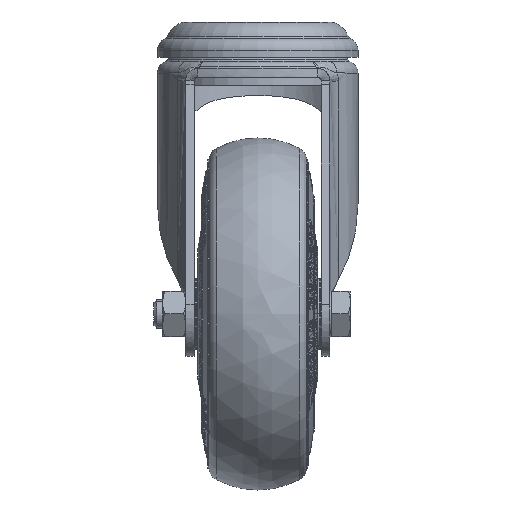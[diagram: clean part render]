
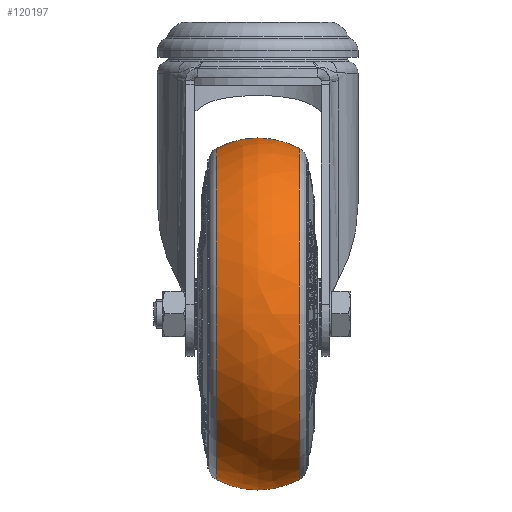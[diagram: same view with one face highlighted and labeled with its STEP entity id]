
A CAD part, top view. The second image highlights one B-rep face of the part: STEP entity #120197.
In plain terms, the highlighted free-form (B-spline) face has degree [3, 3] with [7, 4] control points.
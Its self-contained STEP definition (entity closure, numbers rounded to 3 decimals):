
#1553 = VERTEX_POINT ( 'NONE', #105049 ) ;
#7579 = CARTESIAN_POINT ( 'NONE',  ( -4.455, 51.164, 31.486 ) ) ;
#9254 = CARTESIAN_POINT ( 'NONE',  ( -12.226, -2.939, 46.714 ) ) ;
#13506 = CIRCLE ( 'NONE', #50281, 25. ) ;
#16604 = CARTESIAN_POINT ( 'NONE',  ( 0., 0., 25. ) ) ;
#17002 = CARTESIAN_POINT ( 'NONE',  ( -12.226, -2.939, -46.714 ) ) ;
#17425 = CARTESIAN_POINT ( 'NONE',  ( -4.455, 51.164, 0. ) ) ;
#17834 = CARTESIAN_POINT ( 'NONE',  ( 4.455, 28.211, -53.04 ) ) ;
#18687 = CARTESIAN_POINT ( 'NONE',  ( -4.455, 28.211, 53.04 ) ) ;
#19952 = CARTESIAN_POINT ( 'NONE',  ( 12.226, -2.939, 46.714 ) ) ;
#20178 = CARTESIAN_POINT ( 'NONE',  ( 11.795, 0., -47.043 ) ) ;
#23961 = DIRECTION ( 'NONE',  ( 0., 0., -1. ) ) ;
#27335 = DIRECTION ( 'NONE',  ( 0., 1., 0. ) ) ;
#28171 = CARTESIAN_POINT ( 'NONE',  ( 12.226, -2.939, -46.714 ) ) ;
#30574 = CIRCLE ( 'NONE', #106483, 25. ) ;
#32738 = AXIS2_PLACEMENT_3D ( 'NONE', #115594, #114765, #115187 ) ;
#34246 = CARTESIAN_POINT ( 'NONE',  ( 11.795, 0., 0. ) ) ;
#36264 = CARTESIAN_POINT ( 'NONE',  ( -12.226, 46.807, 0. ) ) ;
#37543 = CARTESIAN_POINT ( 'NONE',  ( -4.455, 51.164, -31.486 ) ) ;
#38396 = CARTESIAN_POINT ( 'NONE',  ( 12.226, 25.809, 48.523 ) ) ;
#42897 = CARTESIAN_POINT ( 'NONE',  ( -11.795, 0., -47.043 ) ) ;
#50281 = AXIS2_PLACEMENT_3D ( 'NONE', #16604, #27335, #94689 ) ;
#52001 = EDGE_CURVE ( 'NONE', #95591, #80076, #30574, .T. ) ;
#56346 = CARTESIAN_POINT ( 'NONE',  ( 12.226, 25.809, -48.523 ) ) ;
#57213 = CARTESIAN_POINT ( 'NONE',  ( -12.226, 46.807, 28.805 ) ) ;
#58075 = CARTESIAN_POINT ( 'NONE',  ( 12.226, 46.807, 28.805 ) ) ;
#64044 = DIRECTION ( 'NONE',  ( 0., -1., 0. ) ) ;
#65853 = FACE_OUTER_BOUND ( 'NONE', #119506, .T. ) ;
#66236 = CARTESIAN_POINT ( 'NONE',  ( 4.455, 51.164, 0. ) ) ;
#68773 = CARTESIAN_POINT ( 'NONE',  ( -12.226, 25.809, 48.523 ) ) ;
#69187 = CARTESIAN_POINT ( 'NONE',  ( 4.455, -3.213, 51.063 ) ) ;
#69233 =( BOUNDED_SURFACE ( )  B_SPLINE_SURFACE ( 3, 3, ( 
 ( #17002, #76568, #106589, #28171 ),
 ( #95092, #86899, #17834, #56346 ),
 ( #85622, #37543, #116373, #106173 ),
 ( #36264, #17425, #66236, #115944 ),
 ( #57213, #7579, #95914, #58075 ),
 ( #68773, #18687, #77431, #38396 ),
 ( #9254, #108239, #69187, #19952 ) ),
 .UNSPECIFIED., .F., .F., .T. ) 
 B_SPLINE_SURFACE_WITH_KNOTS ( ( 4, 3, 4 ),
 ( 4, 4 ),
 ( 0., 1., 2. ),
 ( 0., 1. ),
 .UNSPECIFIED. ) 
 GEOMETRIC_REPRESENTATION_ITEM ( )  RATIONAL_B_SPLINE_SURFACE ( (
 ( 1.268, 1.16, 1.16, 1.268),
 ( 1.002, 0.916, 0.916, 1.002),
 ( 1.002, 0.916, 0.916, 1.002),
 ( 1.268, 1.16, 1.16, 1.268),
 ( 1.002, 0.916, 0.916, 1.002),
 ( 1.002, 0.916, 0.916, 1.002),
 ( 1.268, 1.16, 1.16, 1.268) ) ) 
 REPRESENTATION_ITEM ( '' )  SURFACE ( )  );
#76568 = CARTESIAN_POINT ( 'NONE',  ( -4.455, -3.213, -51.063 ) ) ;
#77431 = CARTESIAN_POINT ( 'NONE',  ( 4.455, 28.211, 53.04 ) ) ;
#79332 = ORIENTED_EDGE ( 'NONE', *, *, #113863, .T. ) ;
#80076 = VERTEX_POINT ( 'NONE', #20178 ) ;
#80413 = EDGE_CURVE ( 'NONE', #95591, #110980, #109865, .T. ) ;
#85622 = CARTESIAN_POINT ( 'NONE',  ( -12.226, 46.807, -28.805 ) ) ;
#86899 = CARTESIAN_POINT ( 'NONE',  ( -4.455, 28.211, -53.04 ) ) ;
#87777 = ORIENTED_EDGE ( 'NONE', *, *, #52001, .F. ) ;
#93323 = DIRECTION ( 'NONE',  ( -0.472, 0., -0.882 ) ) ;
#93648 = ORIENTED_EDGE ( 'NONE', *, *, #111364, .F. ) ;
#94689 = DIRECTION ( 'NONE',  ( -0.472, 0., 0.882 ) ) ;
#95092 = CARTESIAN_POINT ( 'NONE',  ( -12.226, 25.809, -48.523 ) ) ;
#95591 = VERTEX_POINT ( 'NONE', #42897 ) ;
#95914 = CARTESIAN_POINT ( 'NONE',  ( 4.455, 51.164, 31.486 ) ) ;
#103272 = DIRECTION ( 'NONE',  ( 1., 0., 0. ) ) ;
#105049 = CARTESIAN_POINT ( 'NONE',  ( 11.795, 0., 47.043 ) ) ;
#105211 = AXIS2_PLACEMENT_3D ( 'NONE', #34246, #103272, #23961 ) ;
#106173 = CARTESIAN_POINT ( 'NONE',  ( 12.226, 46.807, -28.805 ) ) ;
#106483 = AXIS2_PLACEMENT_3D ( 'NONE', #123195, #64044, #93323 ) ;
#106589 = CARTESIAN_POINT ( 'NONE',  ( 4.455, -3.213, -51.063 ) ) ;
#106773 = ORIENTED_EDGE ( 'NONE', *, *, #80413, .T. ) ;
#108239 = CARTESIAN_POINT ( 'NONE',  ( -4.455, -3.213, 51.063 ) ) ;
#109138 = CIRCLE ( 'NONE', #105211, 47.043 ) ;
#109865 = CIRCLE ( 'NONE', #32738, 47.043 ) ;
#110410 = CARTESIAN_POINT ( 'NONE',  ( -11.795, 0., 47.043 ) ) ;
#110980 = VERTEX_POINT ( 'NONE', #110410 ) ;
#111364 = EDGE_CURVE ( 'NONE', #80076, #1553, #109138, .T. ) ;
#113863 = EDGE_CURVE ( 'NONE', #110980, #1553, #13506, .T. ) ;
#114765 = DIRECTION ( 'NONE',  ( 1., 0., 0. ) ) ;
#115187 = DIRECTION ( 'NONE',  ( 0., 0., -1. ) ) ;
#115594 = CARTESIAN_POINT ( 'NONE',  ( -11.795, 0., 0. ) ) ;
#115944 = CARTESIAN_POINT ( 'NONE',  ( 12.226, 46.807, 0. ) ) ;
#116373 = CARTESIAN_POINT ( 'NONE',  ( 4.455, 51.164, -31.486 ) ) ;
#119506 = EDGE_LOOP ( 'NONE', ( #106773, #79332, #93648, #87777 ) ) ;
#120197 = ADVANCED_FACE ( 'NONE', ( #65853 ), #69233, .T. ) ;
#123195 = CARTESIAN_POINT ( 'NONE',  ( 0., 0., -25. ) ) ;
